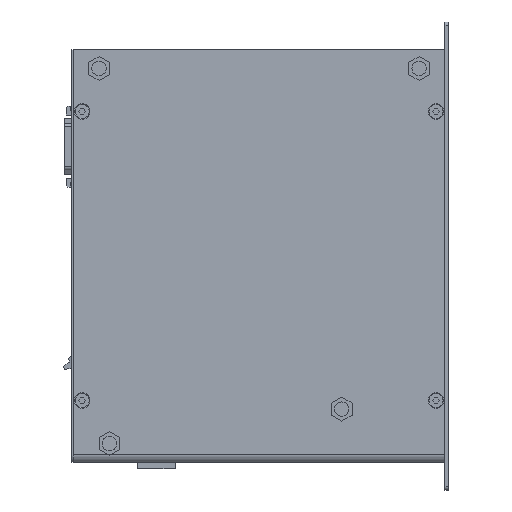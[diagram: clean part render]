
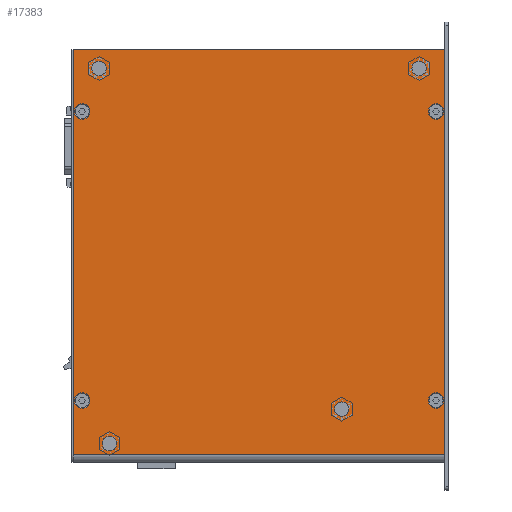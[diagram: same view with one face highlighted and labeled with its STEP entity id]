
A CAD part, left-side view. The second image highlights one B-rep face of the part: STEP entity #17383.
In plain terms, the highlighted planar face has unit normal (-1, 0, 0).
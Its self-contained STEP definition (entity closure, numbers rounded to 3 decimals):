
#15878=DIRECTION('',(0.,0.,-1.));
#15879=VECTOR('',#15878,108.);
#15880=CARTESIAN_POINT('',(-11.5,-2.3,54.));
#15881=LINE('',#15880,#15879);
#15896=DIRECTION('',(0.,-1.,0.));
#15897=VECTOR('',#15896,117.7);
#15898=CARTESIAN_POINT('',(-11.5,-2.3,-54.));
#15899=LINE('',#15898,#15897);
#15900=DIRECTION('',(0.,1.,0.));
#15901=VECTOR('',#15900,117.7);
#15902=CARTESIAN_POINT('',(-11.5,-120.,54.));
#15903=LINE('',#15902,#15901);
#15904=DIRECTION('',(0.,0.,1.));
#15905=VECTOR('',#15904,108.);
#15906=CARTESIAN_POINT('',(-11.5,-120.,-54.));
#15907=LINE('',#15906,#15905);
#15908=CARTESIAN_POINT('',(-11.5,-18.,51.4));
#15909=DIRECTION('',(-1.,0.,0.));
#15910=DIRECTION('',(0.,1.,0.));
#15911=AXIS2_PLACEMENT_3D('',#15908,#15909,#15910);
#15913=CARTESIAN_POINT('',(-11.5,-18.,51.4));
#15914=DIRECTION('',(-1.,0.,0.));
#15915=DIRECTION('',(0.,-1.,0.));
#15916=AXIS2_PLACEMENT_3D('',#15913,#15914,#15915);
#15918=CARTESIAN_POINT('',(-11.5,-102.,51.4));
#15919=DIRECTION('',(-1.,0.,0.));
#15920=DIRECTION('',(0.,1.,0.));
#15921=AXIS2_PLACEMENT_3D('',#15918,#15919,#15920);
#15923=CARTESIAN_POINT('',(-11.5,-102.,51.4));
#15924=DIRECTION('',(-1.,0.,0.));
#15925=DIRECTION('',(0.,-1.,0.));
#15926=AXIS2_PLACEMENT_3D('',#15923,#15924,#15925);
#15928=CARTESIAN_POINT('',(-11.5,-18.,-51.4));
#15929=DIRECTION('',(1.,0.,0.));
#15930=DIRECTION('',(0.,1.,0.));
#15931=AXIS2_PLACEMENT_3D('',#15928,#15929,#15930);
#15933=CARTESIAN_POINT('',(-11.5,-18.,-51.4));
#15934=DIRECTION('',(1.,0.,0.));
#15935=DIRECTION('',(0.,-1.,0.));
#15936=AXIS2_PLACEMENT_3D('',#15933,#15934,#15935);
#15938=CARTESIAN_POINT('',(-11.5,-102.,-51.4));
#15939=DIRECTION('',(1.,0.,0.));
#15940=DIRECTION('',(0.,1.,0.));
#15941=AXIS2_PLACEMENT_3D('',#15938,#15939,#15940);
#15943=CARTESIAN_POINT('',(-11.5,-102.,-51.4));
#15944=DIRECTION('',(1.,0.,0.));
#15945=DIRECTION('',(0.,-1.,0.));
#15946=AXIS2_PLACEMENT_3D('',#15943,#15944,#15945);
#15948=CARTESIAN_POINT('',(-11.5,-114.5,-46.5));
#15949=DIRECTION('',(1.,0.,0.));
#15950=DIRECTION('',(0.,1.,0.));
#15951=AXIS2_PLACEMENT_3D('',#15948,#15949,#15950);
#15953=CARTESIAN_POINT('',(-11.5,-114.5,-46.5));
#15954=DIRECTION('',(1.,0.,0.));
#15955=DIRECTION('',(0.,-1.,0.));
#15956=AXIS2_PLACEMENT_3D('',#15953,#15954,#15955);
#15958=CARTESIAN_POINT('',(-11.5,-114.5,46.5));
#15959=DIRECTION('',(1.,0.,0.));
#15960=DIRECTION('',(0.,1.,0.));
#15961=AXIS2_PLACEMENT_3D('',#15958,#15959,#15960);
#15963=CARTESIAN_POINT('',(-11.5,-114.5,46.5));
#15964=DIRECTION('',(1.,0.,0.));
#15965=DIRECTION('',(0.,-1.,0.));
#15966=AXIS2_PLACEMENT_3D('',#15963,#15964,#15965);
#15968=CARTESIAN_POINT('',(-11.5,-5.5,43.5));
#15969=DIRECTION('',(1.,0.,0.));
#15970=DIRECTION('',(0.,1.,0.));
#15971=AXIS2_PLACEMENT_3D('',#15968,#15969,#15970);
#15973=CARTESIAN_POINT('',(-11.5,-5.5,43.5));
#15974=DIRECTION('',(1.,0.,0.));
#15975=DIRECTION('',(0.,-1.,0.));
#15976=AXIS2_PLACEMENT_3D('',#15973,#15974,#15975);
#15978=CARTESIAN_POINT('',(-11.5,-15.5,-24.));
#15979=DIRECTION('',(1.,0.,0.));
#15980=DIRECTION('',(0.,1.,0.));
#15981=AXIS2_PLACEMENT_3D('',#15978,#15979,#15980);
#15983=CARTESIAN_POINT('',(-11.5,-15.5,-24.));
#15984=DIRECTION('',(1.,0.,0.));
#15985=DIRECTION('',(0.,-1.,0.));
#15986=AXIS2_PLACEMENT_3D('',#15983,#15984,#15985);
#16846=CARTESIAN_POINT('',(-11.5,-2.3,-54.));
#16847=CARTESIAN_POINT('',(-11.5,-120.,-54.));
#16848=VERTEX_POINT('',#16846);
#16849=VERTEX_POINT('',#16847);
#16850=CARTESIAN_POINT('',(-11.5,-120.,54.));
#16851=VERTEX_POINT('',#16850);
#16852=CARTESIAN_POINT('',(-11.5,-2.3,54.));
#16853=VERTEX_POINT('',#16852);
#16886=CARTESIAN_POINT('',(-11.5,-15.75,51.4));
#16887=CARTESIAN_POINT('',(-11.5,-20.25,51.4));
#16888=VERTEX_POINT('',#16886);
#16889=VERTEX_POINT('',#16887);
#16898=CARTESIAN_POINT('',(-11.5,-99.75,51.4));
#16899=CARTESIAN_POINT('',(-11.5,-104.25,51.4));
#16900=VERTEX_POINT('',#16898);
#16901=VERTEX_POINT('',#16899);
#16924=CARTESIAN_POINT('',(-11.5,-15.75,-51.4));
#16925=VERTEX_POINT('',#16924);
#16928=CARTESIAN_POINT('',(-11.5,-20.25,-51.4));
#16929=VERTEX_POINT('',#16928);
#16936=CARTESIAN_POINT('',(-11.5,-99.75,-51.4));
#16937=VERTEX_POINT('',#16936);
#16940=CARTESIAN_POINT('',(-11.5,-104.25,-51.4));
#16941=VERTEX_POINT('',#16940);
#17054=CARTESIAN_POINT('',(-11.5,-112.4,-46.5));
#17055=CARTESIAN_POINT('',(-11.5,-116.6,-46.5));
#17056=VERTEX_POINT('',#17054);
#17057=VERTEX_POINT('',#17055);
#17062=CARTESIAN_POINT('',(-11.5,-112.4,46.5));
#17063=CARTESIAN_POINT('',(-11.5,-116.6,46.5));
#17064=VERTEX_POINT('',#17062);
#17065=VERTEX_POINT('',#17063);
#17070=CARTESIAN_POINT('',(-11.5,-3.4,43.5));
#17071=CARTESIAN_POINT('',(-11.5,-7.6,43.5));
#17072=VERTEX_POINT('',#17070);
#17073=VERTEX_POINT('',#17071);
#17078=CARTESIAN_POINT('',(-11.5,-13.4,-24.));
#17079=CARTESIAN_POINT('',(-11.5,-17.6,-24.));
#17080=VERTEX_POINT('',#17078);
#17081=VERTEX_POINT('',#17079);
#17321=CARTESIAN_POINT('',(-11.5,0.,-54.));
#17322=DIRECTION('',(-1.,0.,0.));
#17323=DIRECTION('',(0.,0.,-1.));
#17324=AXIS2_PLACEMENT_3D('',#17321,#17322,#17323);
#17325=PLANE('',#17324);
#17327=ORIENTED_EDGE('',*,*,#17326,.F.);
#17328=ORIENTED_EDGE('',*,*,#17311,.F.);
#17330=ORIENTED_EDGE('',*,*,#17329,.F.);
#17332=ORIENTED_EDGE('',*,*,#17331,.F.);
#17333=EDGE_LOOP('',(#17327,#17328,#17330,#17332));
#17334=FACE_OUTER_BOUND('',#17333,.F.);
#17336=ORIENTED_EDGE('',*,*,#17335,.T.);
#17338=ORIENTED_EDGE('',*,*,#17337,.T.);
#17339=EDGE_LOOP('',(#17336,#17338));
#17340=FACE_BOUND('',#17339,.F.);
#17342=ORIENTED_EDGE('',*,*,#17341,.T.);
#17344=ORIENTED_EDGE('',*,*,#17343,.T.);
#17345=EDGE_LOOP('',(#17342,#17344));
#17346=FACE_BOUND('',#17345,.F.);
#17348=ORIENTED_EDGE('',*,*,#17347,.F.);
#17350=ORIENTED_EDGE('',*,*,#17349,.F.);
#17351=EDGE_LOOP('',(#17348,#17350));
#17352=FACE_BOUND('',#17351,.F.);
#17354=ORIENTED_EDGE('',*,*,#17353,.F.);
#17356=ORIENTED_EDGE('',*,*,#17355,.F.);
#17357=EDGE_LOOP('',(#17354,#17356));
#17358=FACE_BOUND('',#17357,.F.);
#17360=ORIENTED_EDGE('',*,*,#17359,.F.);
#17362=ORIENTED_EDGE('',*,*,#17361,.F.);
#17363=EDGE_LOOP('',(#17360,#17362));
#17364=FACE_BOUND('',#17363,.F.);
#17366=ORIENTED_EDGE('',*,*,#17365,.F.);
#17368=ORIENTED_EDGE('',*,*,#17367,.F.);
#17369=EDGE_LOOP('',(#17366,#17368));
#17370=FACE_BOUND('',#17369,.F.);
#17372=ORIENTED_EDGE('',*,*,#17371,.F.);
#17374=ORIENTED_EDGE('',*,*,#17373,.F.);
#17375=EDGE_LOOP('',(#17372,#17374));
#17376=FACE_BOUND('',#17375,.F.);
#17378=ORIENTED_EDGE('',*,*,#17377,.F.);
#17380=ORIENTED_EDGE('',*,*,#17379,.F.);
#17381=EDGE_LOOP('',(#17378,#17380));
#17382=FACE_BOUND('',#17381,.F.);
#15912=CIRCLE('',#15911,2.25);
#15917=CIRCLE('',#15916,2.25);
#15922=CIRCLE('',#15921,2.25);
#15927=CIRCLE('',#15926,2.25);
#15932=CIRCLE('',#15931,2.25);
#15937=CIRCLE('',#15936,2.25);
#15942=CIRCLE('',#15941,2.25);
#15947=CIRCLE('',#15946,2.25);
#15952=CIRCLE('',#15951,2.1);
#15957=CIRCLE('',#15956,2.1);
#15962=CIRCLE('',#15961,2.1);
#15967=CIRCLE('',#15966,2.1);
#15972=CIRCLE('',#15971,2.1);
#15977=CIRCLE('',#15976,2.1);
#15982=CIRCLE('',#15981,2.1);
#15987=CIRCLE('',#15986,2.1);
#17311=EDGE_CURVE('',#16853,#16848,#15881,.T.);
#17326=EDGE_CURVE('',#16848,#16849,#15899,.T.);
#17329=EDGE_CURVE('',#16851,#16853,#15903,.T.);
#17331=EDGE_CURVE('',#16849,#16851,#15907,.T.);
#17335=EDGE_CURVE('',#16888,#16889,#15912,.T.);
#17337=EDGE_CURVE('',#16889,#16888,#15917,.T.);
#17341=EDGE_CURVE('',#16900,#16901,#15922,.T.);
#17343=EDGE_CURVE('',#16901,#16900,#15927,.T.);
#17347=EDGE_CURVE('',#16925,#16929,#15932,.T.);
#17349=EDGE_CURVE('',#16929,#16925,#15937,.T.);
#17353=EDGE_CURVE('',#16937,#16941,#15942,.T.);
#17355=EDGE_CURVE('',#16941,#16937,#15947,.T.);
#17359=EDGE_CURVE('',#17056,#17057,#15952,.T.);
#17361=EDGE_CURVE('',#17057,#17056,#15957,.T.);
#17365=EDGE_CURVE('',#17064,#17065,#15962,.T.);
#17367=EDGE_CURVE('',#17065,#17064,#15967,.T.);
#17371=EDGE_CURVE('',#17072,#17073,#15972,.T.);
#17373=EDGE_CURVE('',#17073,#17072,#15977,.T.);
#17377=EDGE_CURVE('',#17080,#17081,#15982,.T.);
#17379=EDGE_CURVE('',#17081,#17080,#15987,.T.);
#17383=ADVANCED_FACE('',(#17334,#17340,#17346,#17352,#17358,#17364,#17370,
#17376,#17382),#17325,.T.);
